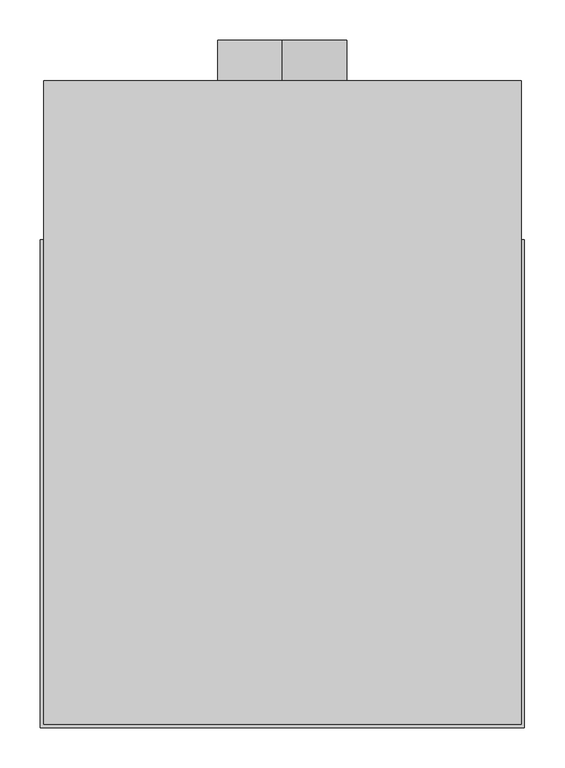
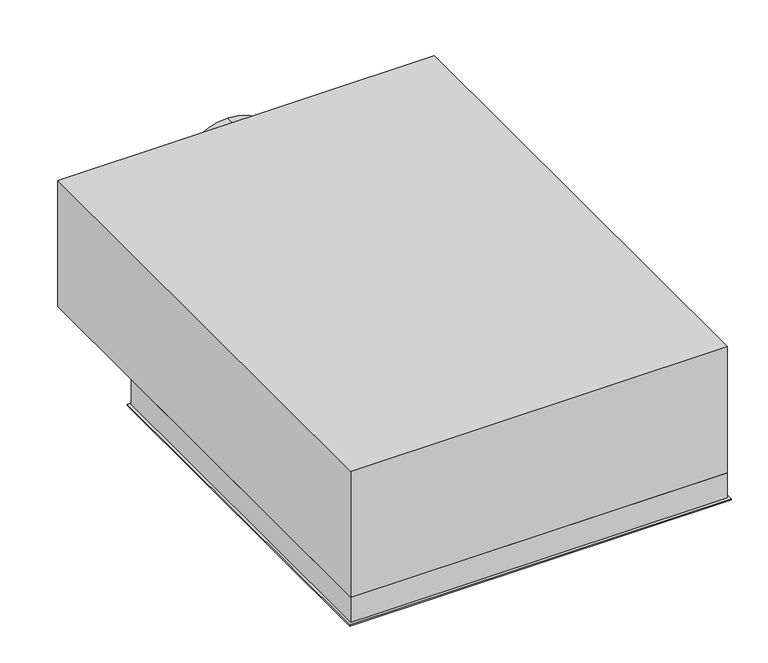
"""IFC4 building model written with IfcOpenShell, lengths in millimetres: air terminal geometry, EOL - plafonnier - SHORT : EOL-P4-160-600x600-SHORT."""

from ifc_helpers import new_model, si_unit, point, frame, frame_2d, origin, origin_with_axes, place, context, project, spatial, polyline, circle_curve, ellipse_curve, trimmed, segment, composite_curve, outline, extrude, source, transform, mapped, element, save
from ifc_brep_helpers import plane_surface, cylinder_surface, revolved_surface, advanced_brep


def air_terminal_32119658(model_context):
    return source(origin(), model_context, "Body", "SolidModel", [
        advanced_brep(
        [(42.3125856, 336.1251712, 26.7), (70.0, 363.8125856, 1.0), (70.0, 221.1874144, 1.0), (42.3125856, 248.8748288, 26.7), (42.3125856, 336.1251712, 35.0), (42.3125856, 248.8748288, 35.0), (43.3125856, 337.1251712, 26.77286), (43.3125856, 337.1251712, 35.0), (43.3125856, 247.8748288, 35.0), (43.3125856, 247.8748288, 26.77286), (70.0, 363.8125856, 2.0025269), (70.0, 221.1874144, 2.0025269), (-70.0, 221.1874144, 1.0), (-42.3125856, 248.8748288, 26.7), (-42.3125856, 248.8748288, 35.0), (-43.3125856, 247.8748288, 35.0), (-43.3125856, 247.8748288, 26.77286), (-70.0, 221.1874144, 2.0025269), (-70.0, 363.8125856, 1.0), (-42.3125856, 336.1251712, 26.7), (-42.3125856, 336.1251712, 35.0), (-43.3125856, 337.1251712, 35.0), (-43.3125856, 337.1251712, 26.77286), (-70.0, 363.8125856, 2.0025269)],
        [
            (0, 1, ellipse_curve(frame((72.1, 365.9125856, 31.0266548), z_axis=(0.7071067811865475, -0.7071067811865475, 0.0), x_axis=(0.7071067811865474, 0.7071067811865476, 0.0)), 42.5678282, 30.1)),
            (1, 2),
            (2, 3, ellipse_curve(frame((72.1, 219.0874144, 31.0266548), z_axis=(0.7071067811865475, 0.7071067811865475, 0.0), x_axis=(-0.7071067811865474, 0.7071067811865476, 0.0)), 42.5678282, 30.1)),
            (3, 0),
            (4, 0),
            (3, 5),
            (5, 4),
            (6, 7),
            (7, 8),
            (8, 9),
            (9, 6),
            (10, 6, ellipse_curve(frame((72.1, 365.9125856, 31.0266548), z_axis=(-0.7071067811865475, 0.7071067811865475, 0.0), x_axis=(-0.7071067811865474, -0.7071067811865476, 0.0)), 41.1536147, 29.1)),
            (9, 11, ellipse_curve(frame((72.1, 219.0874144, 31.0266548), z_axis=(-0.7071067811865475, -0.7071067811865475, 0.0), x_axis=(0.7071067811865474, -0.7071067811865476, 0.0)), 41.1536147, 29.1)),
            (11, 10),
            (1, 10),
            (11, 2),
            (2, 12),
            (12, 13, ellipse_curve(frame((-72.1, 219.0874144, 31.0266548), z_axis=(0.7071067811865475, -0.7071067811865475, 0.0), x_axis=(0.7071067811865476, 0.7071067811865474, 0.0)), 42.5678282, 30.1)),
            (13, 3),
            (13, 14),
            (14, 5),
            (8, 15),
            (15, 16),
            (16, 9),
            (16, 17, ellipse_curve(frame((-72.1, 219.0874144, 31.0266548), z_axis=(-0.7071067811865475, 0.7071067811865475, 0.0), x_axis=(-0.7071067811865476, -0.7071067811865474, 0.0)), 41.1536147, 29.1)),
            (17, 11),
            (17, 12),
            (12, 18),
            (18, 19, ellipse_curve(frame((-72.1, 365.9125856, 31.0266548), z_axis=(-0.7071067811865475, -0.7071067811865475, 0.0), x_axis=(0.7071067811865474, -0.7071067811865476, 0.0)), 42.5678282, 30.1)),
            (19, 13),
            (19, 20),
            (20, 14),
            (15, 21),
            (21, 22),
            (22, 16),
            (22, 23, ellipse_curve(frame((-72.1, 365.9125856, 31.0266548), z_axis=(0.7071067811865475, 0.7071067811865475, 0.0), x_axis=(-0.7071067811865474, 0.7071067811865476, 0.0)), 41.1536147, 29.1)),
            (23, 17),
            (23, 18),
            (18, 1),
            (0, 19),
            (4, 20),
            (7, 21),
            (6, 22),
            (10, 23),
        ],
        [
            cylinder_surface(frame((72.1, 335.8125856, 31.0266548), z_axis=(0.0, 1.0, 0.0), x_axis=(1.0, 0.0, 0.0)), 30.1),
            plane_surface(frame((42.3125856, 336.1251712, 26.7), z_axis=(-1.0, 0.0, 0.0), x_axis=(0.0, -1.0, 0.0))),
            plane_surface(frame((43.3125856, 337.1251712, 35.0), z_axis=(1.0, 0.0, 0.0), x_axis=(0.0, -1.0, 0.0))),
            revolved_surface(polyline([(101.19999999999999, 189.98741437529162, 31.0266548), (101.19999999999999, 395.0125856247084, 31.0266548)]), (72.1, 335.8125856, 31.0266548), (0.0, -1.0, 0.0)),
            plane_surface(frame((70.0, 363.8125856, 2.0025269), z_axis=(1.0, 0.0, 0.0), x_axis=(0.0, -1.0, 0.0))),
            cylinder_surface(frame((42.0, 219.0874144, 31.0266548), z_axis=(1.0, 0.0, 0.0), x_axis=(0.0, -1.0, 0.0)), 30.1),
            plane_surface(frame((42.3125856, 248.8748288, 26.7), z_axis=(0.0, 1.0, 0.0), x_axis=(-1.0, 0.0, 0.0))),
            plane_surface(frame((43.3125856, 247.8748288, 35.0), z_axis=(0.0, -1.0, 0.0), x_axis=(-1.0, 0.0, 0.0))),
            revolved_surface(polyline([(-101.20000002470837, 189.9874144, 31.0266548), (101.20000002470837, 189.9874144, 31.0266548)]), (42.0, 219.0874144, 31.0266548), (-1.0, 0.0, 0.0)),
            plane_surface(frame((70.0, 221.1874144, 2.0025269), z_axis=(0.0, -1.0, 0.0), x_axis=(-1.0, 0.0, 0.0))),
            cylinder_surface(frame((-72.1, 249.1874144, 31.0266548), z_axis=(0.0, -1.0, 0.0), x_axis=(-1.0, 0.0, 0.0)), 30.1),
            plane_surface(frame((-42.3125856, 248.8748288, 26.7), z_axis=(1.0, 0.0, 0.0), x_axis=(0.0, 1.0, 0.0))),
            plane_surface(frame((-43.3125856, 247.8748288, 35.0), z_axis=(-1.0, 0.0, 0.0), x_axis=(0.0, 1.0, 0.0))),
            revolved_surface(polyline([(-101.19999999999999, 395.0125856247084, 31.0266548), (-101.19999999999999, 189.98741437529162, 31.0266548)]), (-72.1, 249.1874144, 31.0266548), (0.0, 1.0, 0.0)),
            plane_surface(frame((-70.0, 221.1874144, 2.0025269), z_axis=(-1.0, 0.0, 0.0), x_axis=(0.0, 1.0, 0.0))),
            cylinder_surface(frame((-42.0, 365.9125856, 31.0266548), z_axis=(-1.0, 0.0, 0.0), x_axis=(0.0, 1.0, 0.0)), 30.1),
            plane_surface(frame((-42.3125856, 336.1251712, 26.7), z_axis=(0.0, -1.0, 0.0), x_axis=(1.0, 0.0, 0.0))),
            plane_surface(frame((-42.3125856, 336.1251712, 35.0), z_axis=(0.0, 0.0, 1.0), x_axis=(1.0, 0.0, 0.0))),
            plane_surface(frame((-43.3125856, 337.1251712, 35.0), z_axis=(0.0, 1.0, 0.0), x_axis=(1.0, 0.0, 0.0))),
            revolved_surface(polyline([(101.20000002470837, 395.0125856, 31.0266548), (-101.20000002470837, 395.0125856, 31.0266548)]), (-42.0, 365.9125856, 31.0266548), (1.0, 0.0, 0.0)),
            plane_surface(frame((-70.0, 363.8125856, 2.0025269), z_axis=(0.0, 1.0, 0.0), x_axis=(1.0, 0.0, 0.0))),
        ],
        [
            (0, [[1, 2, 3, 4]]),
            (1, [[5, -4, 6, 7]]),
            (2, [[8, 9, 10, 11]]),
            (3, [[12, -11, 13, 14]]),
            (4, [[15, -14, 16, -2]]),
            (5, [[-3, 17, 18, 19]]),
            (6, [[-6, -19, 20, 21]]),
            (7, [[-10, 22, 23, 24]]),
            (8, [[-13, -24, 25, 26]]),
            (9, [[-16, -26, 27, -17]]),
            (10, [[-18, 28, 29, 30]]),
            (11, [[-20, -30, 31, 32]]),
            (12, [[-23, 33, 34, 35]]),
            (13, [[-25, -35, 36, 37]]),
            (14, [[-27, -37, 38, -28]]),
            (15, [[-29, 39, -1, 40]]),
            (16, [[-31, -40, -5, 41]]),
            (17, [[42, -33, -22, -9], [-21, -32, -41, -7]]),
            (18, [[-34, -42, -8, 43]]),
            (19, [[-36, -43, -12, 44]]),
            (20, [[-38, -44, -15, -39]]),
        ],
    ),
        advanced_brep(
        [(295.0, 790.0, 251.0), (-295.0, 790.0, 251.0), (-295.0, -5.0, 251.0), (295.0, -5.0, 251.0), (295.0, 790.0, 42.0), (295.0, -5.0, 42.0), (-295.0, -5.0, 42.0), (-295.0, 790.0, 42.0), (290.0, 585.0, 42.0), (-290.0, 585.0, 42.0), (-290.0, 0.0, 42.0), (290.0, 0.0, 42.0), (-79.0, 790.0, 141.0), (79.0, 790.0, 141.0), (290.0, 785.0, 246.0), (290.0, 785.0, 47.0), (290.0, 585.0, 47.0), (290.0, 0.0, 246.0), (-290.0, 0.0, 246.0), (-290.0, 585.0, 47.0), (-290.0, 785.0, 47.0), (-290.0, 785.0, 246.0), (79.0, 785.0, 141.0), (-79.0, 785.0, 141.0)],
        [
            (0, 1),
            (1, 2),
            (2, 3),
            (3, 0),
            (4, 5),
            (5, 6),
            (6, 7),
            (7, 4),
            (8, 9),
            (9, 10),
            (10, 11),
            (11, 8),
            (0, 4),
            (7, 1),
            (12, 13, circle_curve(frame((0.0, 790.0, 141.0), z_axis=(0.0, -1.0, 0.0), x_axis=(1.0, 0.0, 0.0)), 79.0)),
            (13, 12, circle_curve(frame((0.0, 790.0, 141.0), z_axis=(0.0, -1.0, 0.0), x_axis=(1.0, 0.0, 0.0)), 79.0)),
            (6, 2),
            (5, 3),
            (14, 15),
            (15, 16),
            (16, 8),
            (11, 17),
            (17, 14),
            (18, 10),
            (9, 19),
            (19, 20),
            (20, 21),
            (21, 18),
            (17, 18),
            (21, 14),
            (15, 20),
            (19, 16),
            (22, 23, circle_curve(frame((0.0, 785.0, 141.0), z_axis=(0.0, 1.0, 0.0), x_axis=(1.0, 0.0, 0.0)), 79.0)),
            (23, 22, circle_curve(frame((0.0, 785.0, 141.0), z_axis=(0.0, 1.0, 0.0), x_axis=(1.0, 0.0, 0.0)), 79.0)),
            (12, 23),
            (22, 13),
        ],
        [
            plane_surface(frame((-295.0, 790.0, 251.0), z_axis=(0.0, 0.0, 1.0), x_axis=(-1.0, 0.0, 0.0))),
            plane_surface(frame((-295.0, 790.0, 42.0), z_axis=(0.0, 0.0, -1.0), x_axis=(1.0, 0.0, 0.0))),
            plane_surface(frame((295.0, 790.0, 251.0), z_axis=(0.0, 1.0, 0.0), x_axis=(0.0, 0.0, -1.0))),
            plane_surface(frame((-295.0, 790.0, 251.0), z_axis=(-1.0, 0.0, 0.0), x_axis=(0.0, 0.0, -1.0))),
            plane_surface(frame((-295.0, -5.0, 251.0), z_axis=(0.0, -1.0, 0.0), x_axis=(0.0, 0.0, -1.0))),
            plane_surface(frame((295.0, -5.0, 251.0), z_axis=(1.0, 0.0, 0.0), x_axis=(0.0, 0.0, -1.0))),
            plane_surface(frame((290.0, 585.0, 246.0), z_axis=(-1.0, 0.0, 0.0), x_axis=(0.0, -1.0, 0.0))),
            plane_surface(frame((-290.0, 585.0, 246.0), z_axis=(1.0, 0.0, 0.0), x_axis=(0.0, 1.0, 0.0))),
            plane_surface(frame((290.0, 785.0, 246.0), z_axis=(0.0, 0.0, -1.0), x_axis=(-1.0, 0.0, 0.0))),
            plane_surface(frame((290.0, 585.0, 47.0), z_axis=(0.0, 0.0, 1.0), x_axis=(-1.0, 0.0, 0.0))),
            plane_surface(frame((290.0, 785.0, 47.0), z_axis=(0.0, -1.0, 0.0), x_axis=(-1.0, 0.0, 0.0))),
            revolved_surface(polyline([(79.0, 785.0, 141.0), (79.0, 790.0, 141.0)]), (0.0, 840.0, 141.0), (0.0, -1.0, 0.0)),
            plane_surface(frame((290.0, 585.0, 246.0), z_axis=(0.0, -1.0, 0.0), x_axis=(0.0, 0.0, -1.0))),
            plane_surface(frame((-290.0, 0.0, 246.0), z_axis=(0.0, 1.0, 0.0), x_axis=(0.0, 0.0, -1.0))),
        ],
        [
            (0, [[1, 2, 3, 4]]),
            (1, [[5, 6, 7, 8], [9, 10, 11, 12]]),
            (2, [[-1, 13, -8, 14], [15, 16]]),
            (3, [[-2, -14, -7, 17]]),
            (4, [[-3, -17, -6, 18]]),
            (5, [[-4, -18, -5, -13]]),
            (6, [[19, 20, 21, -12, 22, 23]]),
            (7, [[24, -10, 25, 26, 27, 28]]),
            (8, [[-23, 29, -28, 30]]),
            (9, [[-20, 31, -26, 32]]),
            (10, [[-19, -30, -27, -31], [33, 34]]),
            (11, [[35, -33, 36, -15]]),
            (11, [[-35, -16, -36, -34]]),
            (12, [[-21, -32, -25, -9]]),
            (13, [[-29, -22, -11, -24]]),
        ],
    ),
        extrude(outline(polyline([(299.0, 594.0), (299.0, -9.0), (-299.0, -9.0), (-299.0, 594.0), (299.0, 594.0)]), holes=[polyline([(290.0, 585.0), (-290.0, 585.0), (-290.0, 0.0), (290.0, 0.0), (290.0, 585.0)])]), frame((0.0, 0.0, -2.0), z_axis=(0.0, 0.0, 1.0), x_axis=(1.0, 0.0, 0.0)), (0.0, 0.0, 1.0), 2.0),
        extrude(outline(composite_curve([segment(trimmed(circle_curve(frame_2d((141.0, 0.0)), 80.0), [point((61.0, 0.0))], [point((221.0, 0.0))], False, "CARTESIAN"), True, "CONTINUOUS"), segment(trimmed(circle_curve(frame_2d((141.0, 0.0)), 80.0), [point((221.0, 0.0))], [point((61.0, 0.0))], False, "CARTESIAN"), True, "CONTINUOUS")], self_intersect=False), holes=[composite_curve([segment(trimmed(circle_curve(frame_2d((141.0, 0.0)), 79.0), [point((141.0, 79.0))], [point((141.0, -79.0))], True, "CARTESIAN"), True, "CONTINUOUS"), segment(trimmed(circle_curve(frame_2d((141.0, 0.0)), 79.0), [point((141.0, -79.0))], [point((141.0, 79.0))], True, "CARTESIAN"), True, "CONTINUOUS")], self_intersect=False)]), frame((0.0, 790.0, 0.0), z_axis=(0.0, 1.0, 0.0), x_axis=(0.0, 0.0, 1.0)), (0.0, 0.0, 1.0), 50.0),
        extrude(outline(polyline([(295.0, 590.0), (295.0, -5.0), (-295.0, -5.0), (-295.0, 590.0), (295.0, 590.0)]), holes=[polyline([(290.0, 585.0), (-290.0, 585.0), (-290.0, 0.0), (290.0, 0.0), (290.0, 585.0)])]), origin_with_axes(), (0.0, 0.0, 1.0), 42.0),
    ])


if __name__ == "__main__":
    model = new_model("IFC4")
    model_context = context("Model", 3, world=origin())
    ifc_project = project(units=[si_unit("LENGTHUNIT", "METRE", prefix="MILLI")], contexts=[model_context])
    site = spatial("IfcSite", under=ifc_project)
    building = spatial("IfcBuilding", under=site)
    placement = place(None, origin())
    air_terminal_shape = air_terminal_32119658(model_context)
    element("IfcAirTerminal", 1, ObjectType="EOL - plafonnier - SHORT : EOL-P4-160-600x600-SHORT", at=placement, inside=building, context=model_context, shape_type="MappedRepresentation", body=[
        mapped(air_terminal_shape, transform((0.0, 0.0, 0.0), x_axis=(1.0, 0.0, 0.0), y_axis=(0.0, 1.0, 0.0), z_axis=(0.0, 0.0, 1.0))),
    ])
    save(model, "model.ifc")
